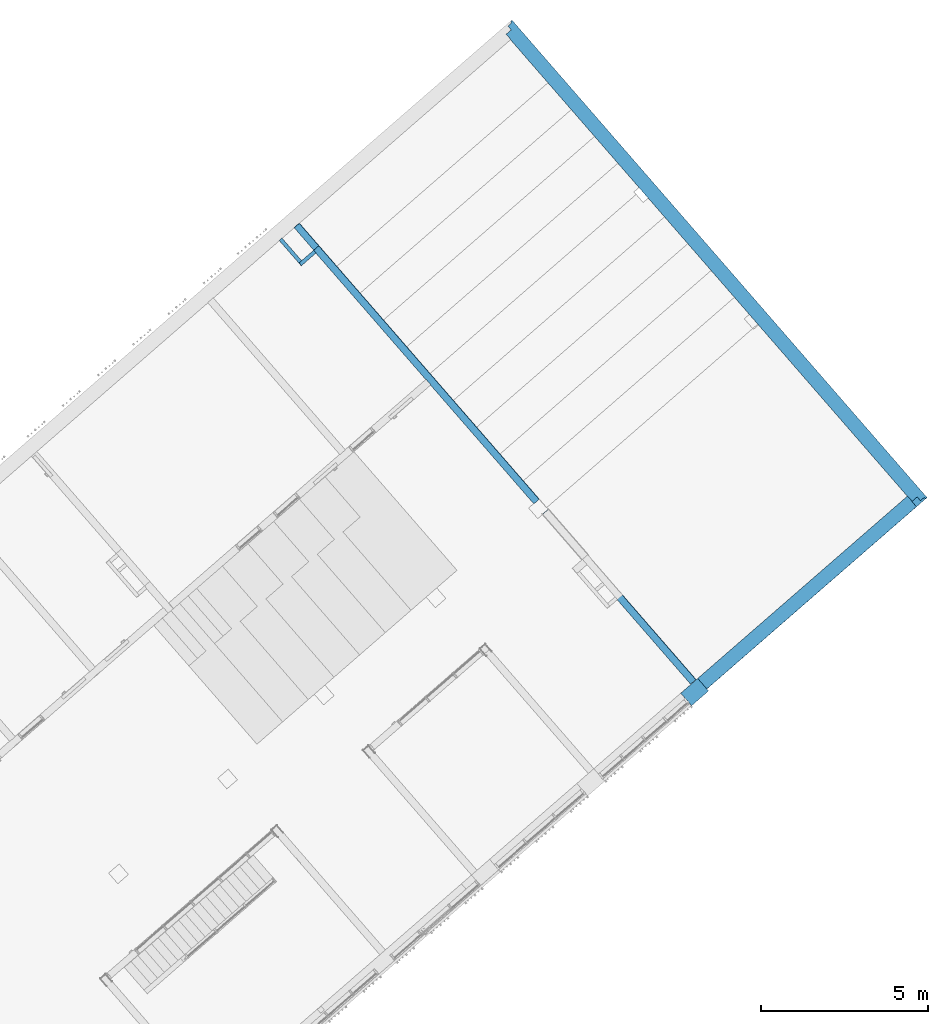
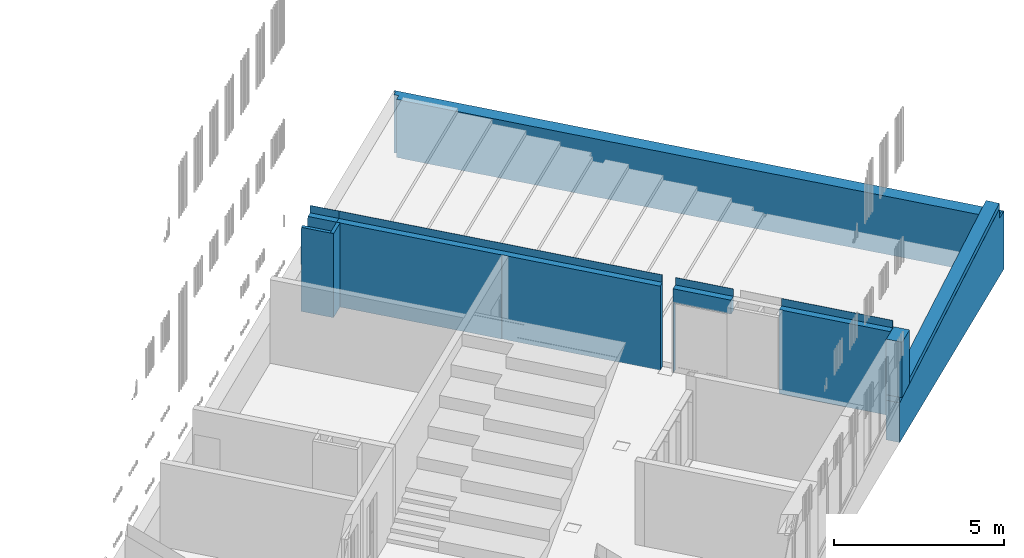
# One storey, part 81 of 124: 9 walls.
"""IFC2X3 building model written with IfcOpenShell, lengths in millimetres."""

from ifc_helpers import new_model, entity, si_unit, converted_unit, derived_unit, money_unit, direction, frame, origin_with_axes, place, context, subcontext, project, spatial, faceted_brep, material, material_list, type_object, element, save


model = new_model("IFC2X3")

# Units and contexts
model_context = context("Model", 3, precision=1e-05, world=origin_with_axes(), true_north=direction((0.0, 1.0)))
body_context = subcontext(model_context, "Body", "Model", "MODEL_VIEW")
ifc_project = project(units=[si_unit("LENGTHUNIT", "METRE", prefix="MILLI"), si_unit("AREAUNIT", "SQUARE_METRE"), si_unit("VOLUMEUNIT", "CUBIC_METRE"), converted_unit("PLANEANGLEUNIT", "DEGREE", entity("IfcPlaneAngleMeasure", 0.0174532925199), si_unit("PLANEANGLEUNIT", "RADIAN"), dimensions=[0, 0, 0, 0, 0, 0, 0]), si_unit("SOLIDANGLEUNIT", "STERADIAN"), money_unit("EUR"), converted_unit("TIMEUNIT", "Year", entity("IfcTimeMeasure", 31556926.0), si_unit("TIMEUNIT", "SECOND"), dimensions=[0, 0, 1, 0, 0, 0, 0]), si_unit("MASSUNIT", "GRAM", prefix="KILO"), si_unit("THERMODYNAMICTEMPERATUREUNIT", "DEGREE_CELSIUS"), si_unit("LUMINOUSINTENSITYUNIT", "LUMEN"), si_unit("ENERGYUNIT", "JOULE", prefix="MEGA"), derived_unit("THERMALCONDUCTANCEUNIT", [(si_unit("POWERUNIT", "WATT"), 1), (si_unit("LENGTHUNIT", "METRE"), -1), (si_unit("THERMODYNAMICTEMPERATUREUNIT", "KELVIN"), -1)]), derived_unit("SPECIFICHEATCAPACITYUNIT", [(si_unit("ENERGYUNIT", "JOULE"), 1), (si_unit("MASSUNIT", "GRAM", prefix="KILO"), -1), (si_unit("THERMODYNAMICTEMPERATUREUNIT", "KELVIN"), -1)]), derived_unit("MASSDENSITYUNIT", [(si_unit("MASSUNIT", "GRAM", prefix="KILO"), 1), (si_unit("VOLUMEUNIT", "CUBIC_METRE"), -1)])], contexts=[model_context])

# Site, building, storey
site_placement = place(None, origin_with_axes())
site = spatial("IfcSite", under=ifc_project, at=site_placement, Name="Site", CompositionType="ELEMENT")
building_placement = place(site_placement, origin_with_axes())
building = spatial("IfcBuilding", under=site, at=building_placement, Name="Building", CompositionType="ELEMENT")
storey_placement = place(building_placement, frame((0.0, 0.0, -1615.0), z_axis=(0.0, 0.0, 1.0), x_axis=(1.0, 0.0, 0.0)))
storey = spatial("IfcBuildingStorey", under=building, at=storey_placement, Name="0  korrus", CompositionType="ELEMENT", Elevation=-1615.0)

# Walls
ifc_material_1 = material(Name="Krohv - Lubjakivi")
ifc_material_2 = material(Name="Raudbetoon - Konstruktsioon")
ifc_material_list_1 = material_list([ifc_material_1, ifc_material_1, ifc_material_1, ifc_material_2, ifc_material_2, ifc_material_1, ifc_material_1, ifc_material_1])
wall_type_1 = type_object("IfcWallType", Name="SS-10", PredefinedType="NOTDEFINED")
wall_1_placement = place(storey_placement, frame((160795.819875, 107943.17128, -20.0), z_axis=(0.0, 0.0, 1.0), x_axis=(0.656059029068, -0.754709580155, 0.0)))
element("IfcWall", 1, at=wall_1_placement, inside=storey, type_object=wall_type_1, material=ifc_material_list_1, Name="SS-10", context=body_context, shape_type="Brep", body=[
    faceted_brep([(10060.0000922, 209.99999965, 3285.0), (10060.0000922, 219.999999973, 3285.0), (0.0, 219.999999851, 3285.0), (0.0, 209.999998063, 3285.0), (10060.0000922, 220.0, 0.0), (10060.0000922, 209.999798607, 0.0), (9340.00012424, 220.0, 0.0), (9340.00012424, 219.999999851, 120.0), (8275.00011862, 219.999999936, 120.0), (8275.00011959, 219.999999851, 280.0), (7210.00011397, 219.999999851, 280.0), (7210.00011494, 219.999999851, 440.0), (6145.00010932, 219.999999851, 440.0), (6145.0001103, 219.999999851, 600.0), (5080.00010467, 219.999999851, 600.0), (5080.00010565, 219.999999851, 760.0), (4015.00010002, 219.999999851, 760.0), (4015.000101, 219.999999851, 920.0), (2950.00009537, 219.999999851, 920.0), (2950.00009635, 219.999999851, 1080.0), (1885.00009073, 219.999999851, 1080.0), (1885.0000917, 219.999999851, 1240.0), (820.000086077, 219.999999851, 1240.0), (820.000086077, 219.999999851, 1400.0), (-2.80292056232e-06, 219.999999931, 1400.0), (0.0, 219.999999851, 3020.0), (-2.86203771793e-06, 209.999737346, 1400.0), (820.000086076, 209.99973737, 1400.0), (820.000086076, 209.99973737, 1240.0), (1885.0000917, 209.999737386, 1240.0), (1885.00009072, 209.999696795, 1080.0), (2950.00009635, 209.999696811, 1080.0), (2950.00009537, 209.99965622, 920.0), (4015.000101, 209.999656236, 920.0), (4015.00010002, 209.999615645, 760.0), (5080.00010565, 209.999615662, 760.0), (5080.00010467, 209.999575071, 600.0), (6145.0001103, 209.999575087, 600.0), (6145.00010932, 209.999534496, 440.0), (7210.00011494, 209.999534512, 440.0), (7210.00011397, 209.999493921, 280.0), (8275.00011959, 209.999493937, 280.0), (8275.00011861, 209.999453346, 120.0), (9340.00012424, 209.999453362, 120.0), (9340.00012424, 209.999453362, 0.0)], [[[0, 1, 2, 3]], [[4, 1, 0, 5]], [[1, 4, 6, 7, 8, 9, 10, 11, 12, 13, 14, 15, 16, 17, 18, 19, 20, 21, 22, 23, 24, 25, 2]], [[25, 24, 26, 3, 2]], [[5, 0, 3, 26, 27, 28, 29, 30, 31, 32, 33, 34, 35, 36, 37, 38, 39, 40, 41, 42, 43, 44]], [[4, 5, 44, 6]], [[44, 43, 7, 6]], [[42, 8, 7, 43]], [[9, 8, 42, 41]], [[40, 10, 9, 41]], [[11, 10, 40, 39]], [[38, 12, 11, 39]], [[13, 12, 38, 37]], [[36, 14, 13, 37]], [[15, 14, 36, 35]], [[34, 16, 15, 35]], [[17, 16, 34, 33]], [[32, 18, 17, 33]], [[19, 18, 32, 31]], [[30, 20, 19, 31]], [[21, 20, 30, 29]], [[29, 28, 22, 21]], [[27, 23, 22, 28]], [[26, 24, 23, 27]]]),
    faceted_brep([(12280.0000711, 210.0, 2520.0), (12280.0000711, 220.0, 2520.0), (12280.0000711, 220.0, 3285.0), (12280.0000711, 210.0, 3285.0), (10480.0000711, 219.999999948, 2520.0), (10480.0000711, 209.999999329, 2520.0), (10480.0000922, 219.999999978, 3285.0), (10480.0000922, 209.999999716, 3285.0)], [[[0, 1, 2, 3]], [[4, 1, 0, 5]], [[1, 4, 6, 2]], [[7, 3, 2, 6]], [[5, 0, 3, 7]], [[4, 5, 7, 6]]]),
    faceted_brep([(7210.00011397, 209.999493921, 40.0), (7210.00011397, 219.999999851, 40.0), (6145.00010932, 219.999999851, 40.0), (6145.00010932, 209.999534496, 40.0), (7210.00011397, 220.0, 0.0), (7210.00011397, 209.999493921, 0.0), (-5.22518917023e-06, 220.0, 0.0), (-3.4950033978e-06, 219.999999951, 1000.0), (820.000086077, 219.999999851, 1000.0), (820.000086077, 219.999999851, 840.0), (1885.00009073, 219.999999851, 840.0), (1885.00009073, 219.999999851, 680.0), (2950.00009537, 219.999999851, 680.0), (2950.00009537, 219.999999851, 520.0), (4015.00010002, 219.999999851, 520.0), (4015.00010002, 219.999999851, 360.0), (5080.00010467, 219.999999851, 360.0), (5080.00010467, 219.999999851, 200.0), (6145.00010932, 219.999999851, 200.0), (6145.00010932, 209.999534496, 200.0), (5080.00010467, 209.999575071, 200.0), (5080.00010467, 209.999575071, 360.0), (4015.00010002, 209.999615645, 360.0), (4015.00010002, 209.999615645, 520.0), (2950.00009537, 209.99965622, 520.0), (2950.00009537, 209.99965622, 680.0), (1885.00009072, 209.999696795, 680.0), (1885.00009072, 209.999696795, 840.0), (820.000086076, 209.99973737, 840.0), (820.000086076, 209.99973737, 1000.0), (-3.46935280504e-06, 209.999737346, 1000.0), (-4.98766894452e-06, 210.0, 0.0)], [[[0, 1, 2, 3]], [[4, 1, 0, 5]], [[1, 4, 6, 7, 8, 9, 10, 11, 12, 13, 14, 15, 16, 17, 18, 2]], [[2, 18, 19, 3]], [[5, 0, 3, 19, 20, 21, 22, 23, 24, 25, 26, 27, 28, 29, 30, 31]], [[4, 5, 31, 6]], [[30, 7, 6, 31]], [[29, 8, 7, 30]], [[8, 29, 28, 9]], [[27, 10, 9, 28]], [[11, 10, 27, 26]], [[25, 12, 11, 26]], [[13, 12, 25, 24]], [[23, 14, 13, 24]], [[15, 14, 23, 22]], [[21, 16, 15, 22]], [[17, 16, 21, 20]], [[19, 18, 17, 20]]]),
    faceted_brep([(10070.0000929, 10.0000002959, 3020.0), (10070.0000922, 209.999872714, 3020.0), (-4.02351929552e-07, 210.000035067, 3020.0), (-1.91704430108e-08, 10.0000016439, 3020.0), (10070.0000922, 210.0, 0.0), (10070.0000929, 9.99999999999, 0.0), (-4.98765473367e-06, 210.0, 0.0), (-2.37491804e-07, 9.99999999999, 0.0)], [[[0, 1, 2, 3]], [[4, 1, 0, 5]], [[1, 4, 6, 2]], [[7, 3, 2, 6]], [[5, 0, 3, 7]], [[4, 5, 7, 6]]]),
    faceted_brep([(12280.0000711, 9.99999999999, 2520.0), (12280.0000711, 120.0, 2520.0), (12280.0000711, 209.999864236, 2520.0), (12280.0000711, 209.999837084, 3020.0), (12280.0000711, 9.99999999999, 3020.0), (10480.0000711, 10.0000017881, 2520.0), (10480.0000711, 210.0, 2520.0), (10470.0000922, 209.999866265, 3020.0), (10480.0000711, 209.999998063, 20.0), (10480.0000711, 210.0, 0.0), (10470.0000922, 210.0, 0.0), (10470.0000929, 10.0000002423, 3020.0), (10470.0000929, 9.99999999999, 0.0), (10480.0000711, 9.99999999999, 0.0), (10480.0000711, 10.0000017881, 20.0), (10480.0000711, 120.0, 20.0)], [[[0, 1, 2, 3, 4]], [[1, 0, 5, 6, 2]], [[7, 3, 2, 6, 8, 9, 10]], [[4, 3, 7, 11]], [[5, 0, 4, 11, 12, 13, 14]], [[5, 14, 15, 8, 6]], [[15, 14, 13, 9, 8]], [[9, 13, 12, 10]], [[10, 12, 11, 7]]]),
    faceted_brep([(10060.0000929, 0.0, 3020.0), (10060.0000929, 10.0000002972, 3020.0), (5340.00012846, 10.000000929, 3020.0), (5340.00012844, 0.0, 3020.0), (10060.0000929, 9.99999999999, 0.0), (10060.0000929, 0.0, 0.0), (5340.00008876, 9.99999999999, 0.0), (5340.00008877, 0.0, 0.0)], [[[0, 1, 2, 3]], [[4, 1, 0, 5]], [[1, 4, 6, 2]], [[7, 3, 2, 6]], [[5, 0, 3, 7]], [[4, 5, 7, 6]]]),
    faceted_brep([(12280.0000711, 0.0, 2520.0), (12280.0000711, 9.99999999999, 2520.0), (12280.0000711, 9.99999999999, 3020.0), (12280.0000711, 0.0, 3020.0), (10480.0000711, 10.0000003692, 2520.0), (10480.0000711, 0.0, 2520.0), (10480.0000929, 10.000000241, 3020.0), (10480.0000929, 0.0, 3020.0)], [[[0, 1, 2, 3]], [[4, 1, 0, 5]], [[1, 4, 6, 2]], [[7, 3, 2, 6]], [[5, 0, 3, 7]], [[4, 5, 7, 6]]]),
    faceted_brep([(109.999999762, 10.0000017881, 3020.0), (5140.00008949, 10.0000009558, 3020.0), (5140.00008876, 9.99999999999, 0.0), (109.999999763, 9.99999999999, 0.0), (5140.00008949, 0.0, 3020.0), (110.0, 0.0, 3020.0), (5140.00008877, 0.0, 0.0), (110.0, 0.0, 0.0)], [[[0, 1, 2, 3]], [[4, 1, 0, 5]], [[1, 4, 6, 2]], [[6, 7, 3, 2]], [[5, 0, 3, 7]], [[4, 5, 7, 6]]]),
])
ifc_material_list_2 = material_list([ifc_material_1, ifc_material_2, ifc_material_1])
wall_2_placement = place(storey_placement, frame((169829.752815, 97550.8203324, -20.0), z_axis=(0.0, 0.0, 1.0), x_axis=(0.656059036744, -0.754709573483, 0.0)))
element("IfcWall", 2, at=wall_2_placement, inside=storey, type_object=wall_type_1, material=ifc_material_list_2, Name="SS-10", context=body_context, shape_type="Brep", body=[
    faceted_brep([(110.000002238, 219.999190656, 3020.0), (2.23759855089e-06, 219.999251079, 3020.0), (0.0, 219.999999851, 3285.0), (3460.0, 220.0, 3285.0), (3460.0, 220.0, 0.0), (110.000002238, 219.999190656, 0.0), (110.000002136, 209.999998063, 3020.0), (2.13589146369e-06, 209.999998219, 3020.0), (0.0, 209.999998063, 3285.0), (3460.0, 210.0, 3285.0), (3460.0, 210.0, 0.0), (110.000002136, 210.0, 0.0)], [[[0, 1, 2, 3, 4, 5]], [[0, 6, 7, 1]], [[1, 7, 8, 2]], [[3, 2, 8, 9]], [[9, 10, 4, 3]], [[11, 5, 4, 10]], [[0, 5, 11, 6]], [[6, 11, 10, 9, 8, 7]]]),
    faceted_brep([(1.72306613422e-07, 209.999841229, 3020.0), (3460.0, 209.999963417, 3020.0), (3460.0, 210.0, 0.0), (2.13590567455e-06, 210.0, 0.0), (3460.0, 9.99999999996, 3020.0), (1.01721298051e-07, 9.99911842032, 3020.0), (3460.0, 9.99999999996, 0.0), (1.01749719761e-07, 9.99999999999, 0.0)], [[[0, 1, 2, 3]], [[4, 1, 0, 5]], [[1, 4, 6, 2]], [[6, 7, 3, 2]], [[5, 0, 3, 7]], [[4, 5, 7, 6]]]),
    faceted_brep([(110.000000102, 10.0000017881, 3020.0), (3460.0, 9.99999999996, 3020.0), (3460.0, 9.99999999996, 0.0), (110.000000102, 9.99999999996, 0.0), (3460.0, 0.0, 3020.0), (110.0, 0.0, 3020.0), (3460.0, 0.0, 0.0), (110.0, 0.0, 0.0)], [[[0, 1, 2, 3]], [[4, 1, 0, 5]], [[1, 4, 6, 2]], [[6, 7, 3, 2]], [[5, 0, 3, 7]], [[4, 5, 7, 6]]]),
])
ifc_material_list_3 = material_list([ifc_material_1, ifc_material_1, ifc_material_2])
wall_type_2 = type_object("IfcWallType", Name="SS-11", PredefinedType="NOTDEFINED")
wall_3_placement = place(storey_placement, frame((160219.474514, 108621.423344, -20.0), z_axis=(0.0, 0.0, 1.0), x_axis=(0.65605900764, -0.754709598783, 0.0)))
element("IfcWall", 3, at=wall_3_placement, inside=storey, type_object=wall_type_2, material=ifc_material_list_3, Name="SS-11", context=body_context, shape_type="Brep", body=[
    faceted_brep([(0.0, 209.999994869, 1000.0), (890.451290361, 210.0, 1000.0), (890.451290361, 210.0, 0.0), (0.0, 209.999992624, 0.0), (890.451290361, 199.999737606, 1000.0), (0.0, 199.999712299, 1000.0), (890.451290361, 200.0, 0.0), (0.0, 199.999995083, 0.0)], [[[0, 1, 2, 3]], [[4, 1, 0, 5]], [[1, 4, 6, 2]], [[2, 6, 7, 3]], [[5, 0, 3, 7]], [[4, 5, 7, 6]]]),
    faceted_brep([(890.451290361, 199.999737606, 1400.0), (890.451290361, 210.0, 1400.0), (890.451290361, 210.0, 3285.0), (890.451290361, 200.0, 3285.0), (0.0, 209.999995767, 1400.0), (0.0, 199.999712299, 1400.0), (0.0, 210.0, 3285.0), (0.0, 200.0, 3285.0)], [[[0, 1, 2, 3]], [[4, 1, 0, 5]], [[1, 4, 6, 2]], [[3, 2, 6, 7]], [[5, 0, 3, 7]], [[4, 5, 7, 6]]]),
    faceted_brep([(0.0, 200.000038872, 3020.0), (890.451290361, 200.000035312, 3020.0), (890.451290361, 200.0, 0.0), (0.0, 199.999995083, 0.0), (0.0, 199.999995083, 1485.0), (-10.0000056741, 199.999995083, 1485.0), (-9.99992724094, 200.0, 2965.0), (0.0, 200.0, 2965.0), (0.0, 3.81462257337e-05, 3020.0), (339.999999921, 1.20967627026e-05, 3020.0), (890.451290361, 0.0, 3020.0), (890.451290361, 0.0, 0.0), (0.0, 0.0, 0.0), (0.0, 0.0, 1485.0), (-10.0, 0.0, 1485.0), (-9.9999446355, 0.0, 2965.0), (0.0, 0.0, 2965.0)], [[[0, 1, 2, 3, 4, 5, 6, 7]], [[1, 0, 8, 9, 10]], [[1, 10, 11, 2]], [[2, 11, 12, 3]], [[12, 13, 4, 3]], [[13, 14, 5, 4]], [[15, 6, 5, 14]], [[7, 6, 15, 16]], [[8, 0, 7, 16]], [[9, 8, 16, 15, 14, 13, 12, 11, 10]]]),
])
ifc_material_3 = material(Name="Membraan - Veekindel")
ifc_material_4 = material(Name="Soojustus - Plastik Kõva")
ifc_material_list_4 = material_list([ifc_material_3, ifc_material_3, ifc_material_4, ifc_material_4, ifc_material_2, ifc_material_1])
wall_type_3 = type_object("IfcWallType", Name="VS-03", PredefinedType="NOTDEFINED")
wall_4_placement = place(storey_placement, frame((166702.429594, 114256.970218, -620.0), z_axis=(0.0, 0.0, 1.0), x_axis=(0.656059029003, -0.754709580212, 0.0)))
element("IfcWall", 4, at=wall_4_placement, inside=storey, type_object=wall_type_3, material=ifc_material_list_4, Name="VS-03", context=body_context, shape_type="Brep", body=[
    faceted_brep([(18550.0000009, 415.0, 0.0), (-420.000000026, 415.0, 0.0), (-420.000000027, 420.0, 0.0), (18550.0000009, 420.0, 0.0), (18550.0000009, 415.0, 2084.99999837), (-420.000000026, 415.0, 2084.99999837), (-420.000000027, 420.0, 2084.99999837), (18550.0000009, 420.0, 2084.99999837)], [[[0, 1, 2, 3]], [[4, 5, 1, 0]], [[2, 1, 5, 6]], [[3, 2, 6, 7]], [[3, 7, 4, 0]], [[7, 6, 5, 4]]]),
    faceted_brep([(18545.0000009, 410.0, 0.0), (-415.000000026, 410.0, 0.0), (-415.000000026, 415.0, 0.0), (18545.0000009, 415.0, 0.0), (18545.0000009, 410.0, 2084.99999837), (-415.000000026, 410.0, 2084.99999837), (-415.000000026, 415.0, 2084.99999837), (18545.0000009, 415.0, 2084.99999837)], [[[0, 1, 2, 3]], [[4, 5, 1, 0]], [[2, 1, 5, 6]], [[3, 2, 6, 7]], [[3, 7, 4, 0]], [[7, 6, 5, 4]]]),
    faceted_brep([(18540.0000009, 360.0, 0.0), (-410.000000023, 360.0, 0.0), (-410.000000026, 410.0, 0.0), (18540.0000009, 410.0, 0.0), (18540.0000009, 360.0, 2084.99999837), (-410.000000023, 360.0, 2084.99999837), (-410.000000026, 410.0, 2084.99999837), (18540.0000009, 410.0, 2084.99999837)], [[[0, 1, 2, 3]], [[4, 5, 1, 0]], [[2, 1, 5, 6]], [[3, 2, 6, 7]], [[3, 7, 4, 0]], [[7, 6, 5, 4]]]),
    faceted_brep([(18490.0000009, 210.0, 0.0), (-360.000000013, 210.0, 0.0), (-360.000000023, 360.0, 0.0), (18490.0000009, 360.0, 0.0), (18490.0000009, 210.0, 2084.99999837), (-360.000000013, 210.0, 2084.99999837), (-360.000000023, 360.0, 2084.99999837), (18490.0000009, 360.0, 2084.99999837)], [[[0, 1, 2, 3]], [[4, 5, 1, 0]], [[2, 1, 5, 6]], [[3, 2, 6, 7]], [[3, 7, 4, 0]], [[7, 6, 5, 4]]]),
    faceted_brep([(18340.0000009, 9.99999999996, 0.0), (-210.000000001, 9.99999999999, 0.0), (-210.000000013, 210.0, 0.0), (18340.0000009, 210.0, 0.0), (18340.0000009, 9.99999999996, 2084.99999837), (-210.000000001, 9.99999999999, 2084.99999837), (-210.000000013, 210.0, 2084.99999837), (18340.0000009, 210.0, 2084.99999837)], [[[0, 1, 2, 3]], [[4, 5, 1, 0]], [[2, 1, 5, 6]], [[3, 2, 6, 7]], [[3, 7, 4, 0]], [[7, 6, 5, 4]]]),
    faceted_brep([(18140.0000009, 0.0, 0.0), (-9.99999999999, 0.0, 0.0), (-10.0000000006, 9.99999999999, 0.0), (18140.0000009, 9.99999999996, 0.0), (18140.0000009, 0.0, 2084.99999837), (-9.99999999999, 0.0, 2084.99999837), (-10.0000000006, 9.99999999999, 2084.99999837), (18140.0000009, 9.99999999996, 2084.99999837)], [[[0, 1, 2, 3]], [[4, 5, 1, 0]], [[2, 1, 5, 6]], [[3, 2, 6, 7]], [[3, 7, 4, 0]], [[7, 6, 5, 4]]]),
])
ifc_material_list_5 = material_list([ifc_material_1, ifc_material_2, ifc_material_4, ifc_material_4, ifc_material_3, ifc_material_3])
wall_5_placement = place(storey_placement, frame((171804.393813, 94669.5544787, -620.0), z_axis=(0.0, 0.0, 1.0), x_axis=(0.75470958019, 0.656059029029, 0.0)))
element("IfcWall", 5, at=wall_5_placement, inside=storey, type_object=wall_type_3, material=ifc_material_list_5, Name="VS-03", context=body_context, shape_type="Brep", body=[
    faceted_brep([(8999.99967705, 0.0, 2433.49572665), (8999.99967705, -10.0000026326, 2433.49572664), (8999.99967705, -10.0, 0.0), (8999.99967705, 0.0, 0.0), (8999.99967705, 0.0, 2084.99999837), (0.0, -10.0, 1425.80345495), (0.0, 0.0, 1425.80345496), (0.0, -10.0, 0.0), (0.0, 0.0, 0.0)], [[[0, 1, 2, 3, 4]], [[5, 1, 0, 6]], [[1, 5, 7, 2]], [[8, 3, 2, 7]], [[6, 0, 4, 3, 8]], [[5, 6, 8, 7]]]),
    faceted_brep([(8999.99967705, -10.0000026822, 2433.49572664), (8999.99967705, -210.0, 2433.49572648), (8999.99967705, -210.0, 2084.99999837), (8999.99967705, -10.0000026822, 2084.99999837), (0.0, -210.0, 1425.80345478), (0.0, -10.0, 1425.80345495), (0.0, -210.0, 0.0), (9009.99967704, -210.0, 0.0), (9009.99967704, -210.0, 2084.99999837), (9009.99967705, -10.0000026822, 2084.99999837), (9009.99967705, -10.0, 0.0), (0.0, -10.0, 0.0)], [[[0, 1, 2, 3]], [[4, 1, 0, 5]], [[1, 4, 6, 7, 8, 2]], [[2, 8, 9, 3]], [[5, 0, 3, 9, 10, 11]], [[4, 5, 11, 6]], [[11, 10, 7, 6]], [[10, 9, 8, 7]]]),
    faceted_brep([(8999.99967705, -210.0, 2433.49572648), (8999.99967705, -360.0, 2433.49572635), (8999.99967705, -360.0, 2084.99999837), (8999.99967705, -210.0, 2084.99999837), (0.0, -360.0, 1425.80345466), (0.0, -210.0, 1425.80345478), (0.0, -360.0, 0.0), (9209.99967704, -360.0, 0.0), (9209.99967704, -360.0, 2084.99999837), (9209.99967704, -210.0, 2084.99999837), (9209.99967704, -210.0, 0.0), (0.0, -210.0, 0.0)], [[[0, 1, 2, 3]], [[4, 1, 0, 5]], [[1, 4, 6, 7, 8, 2]], [[2, 8, 9, 3]], [[5, 0, 3, 9, 10, 11]], [[4, 5, 11, 6]], [[11, 10, 7, 6]], [[10, 9, 8, 7]]]),
    faceted_brep([(8999.99967705, -360.0, 2433.49572635), (8999.99967705, -409.999997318, 2433.49572631), (8999.99967705, -409.999997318, 2084.99999837), (8999.99967705, -360.0, 2084.99999837), (0.0, -410.0, 1425.80345462), (0.0, -360.0, 1425.80345466), (0.0, -410.0, 0.0), (9359.99967703, -410.0, 0.0), (9359.99967703, -409.999997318, 2084.99999837), (9359.99967704, -360.0, 2084.99999837), (9359.99967704, -360.0, 0.0), (0.0, -360.0, 0.0)], [[[0, 1, 2, 3]], [[4, 1, 0, 5]], [[1, 4, 6, 7, 8, 2]], [[2, 8, 9, 3]], [[5, 0, 3, 9, 10, 11]], [[4, 5, 11, 6]], [[11, 10, 7, 6]], [[10, 9, 8, 7]]]),
    faceted_brep([(8999.99967705, -409.999997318, 2433.49572631), (8999.99967705, -415.0, 2433.49572631), (8999.99967705, -415.0, 2084.99999837), (8999.99967705, -409.999997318, 2084.99999837), (0.0, -415.0, 1425.80345462), (0.0, -410.0, 1425.80345462), (0.0, -415.0, 0.0), (9409.99967703, -415.0, 0.0), (9409.99967703, -415.0, 2084.99999837), (9409.99967703, -409.999997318, 2084.99999837), (9409.99967703, -410.0, 0.0), (0.0, -410.0, 0.0)], [[[0, 1, 2, 3]], [[4, 1, 0, 5]], [[1, 4, 6, 7, 8, 2]], [[2, 8, 9, 3]], [[5, 0, 3, 9, 10, 11]], [[4, 5, 11, 6]], [[11, 10, 7, 6]], [[10, 9, 8, 7]]]),
    faceted_brep([(8999.99967705, -415.0, 2433.49572631), (8999.99967705, -420.0, 2433.4957263), (8999.99967705, -420.0, 2084.99999837), (8999.99967705, -415.0, 2084.99999837), (0.0, -420.0, 1425.80345461), (0.0, -415.0, 1425.80345462), (0.0, -420.0, 0.0), (9414.99967703, -420.0, 0.0), (9414.99967703, -420.0, 2084.99999837), (9414.99967703, -415.0, 2084.99999837), (9414.99967703, -415.0, 0.0), (0.0, -415.0, 0.0)], [[[0, 1, 2, 3]], [[4, 1, 0, 5]], [[1, 4, 6, 7, 8, 2]], [[2, 8, 9, 3]], [[5, 0, 3, 9, 10, 11]], [[4, 5, 11, 6]], [[11, 10, 7, 6]], [[10, 9, 8, 7]]]),
])
ifc_material_5 = material(Name="Puit - Konstruktsioon")
ifc_material_6 = material(Name="Õhkvahe")
ifc_material_7 = material(Name="Raudbetoon - Toode")
ifc_material_list_6 = material_list([ifc_material_5, ifc_material_5, ifc_material_6, ifc_material_4, ifc_material_4, ifc_material_7, ifc_material_1])
wall_type_4 = type_object("IfcWallType", Name="VS-01", PredefinedType="NOTDEFINED")
wall_6_placement = place(storey_placement, frame((172313.822779, 95112.3943233, 980.981662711), z_axis=(0.0, 0.0, 1.0), x_axis=(-0.754709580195, -0.656059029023, 0.0)))
element("IfcWall", 6, at=wall_6_placement, inside=storey, type_object=wall_type_4, material=ifc_material_list_6, Name="VS-01", context=body_context, shape_type="Brep", body=[
    faceted_brep([(675.0, 475.0, 24.2164199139), (675.0, 475.0, 2019.01833729), (0.0, 475.0, 2019.01833729), (0.0, 475.0, 99.7933430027), (675.0, 497.0, 24.2164198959), (675.0, 497.0, 2019.01833729), (0.0, 497.0, 2019.01833729), (0.0, 497.0, 99.7933429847)], [[[0, 1, 2, 3]], [[4, 5, 1, 0]], [[1, 5, 6, 2]], [[3, 2, 6, 7]], [[0, 3, 7, 4]], [[5, 4, 7, 6]]]),
    faceted_brep([(675.0, 455.0, 24.2164199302), (675.0, 455.0, 2019.01833729), (0.0, 455.0, 2019.01833729), (0.0, 455.0, 99.793343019), (675.0, 475.0, 24.2164199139), (675.0, 475.0, 2019.01833729), (0.0, 475.0, 2019.01833729), (0.0, 475.0, 99.7933430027)], [[[0, 1, 2, 3]], [[4, 5, 1, 0]], [[1, 5, 6, 2]], [[3, 2, 6, 7]], [[0, 3, 7, 4]], [[5, 4, 7, 6]]]),
    faceted_brep([(675.0, 410.0, 24.2164199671), (675.0, 410.0, 2019.01833729), (0.0, 410.0, 2019.01833729), (0.0, 410.0, 99.7933430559), (675.0, 455.0, 24.2164199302), (675.0, 455.0, 2019.01833729), (0.0, 455.0, 2019.01833729), (0.0, 455.0, 99.793343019)], [[[0, 1, 2, 3]], [[4, 5, 1, 0]], [[1, 5, 6, 2]], [[3, 2, 6, 7]], [[0, 3, 7, 4]], [[5, 4, 7, 6]]]),
    faceted_brep([(675.0, 360.0, 24.216420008), (675.0, 360.0, 2019.01833729), (0.0, 360.0, 2019.01833729), (0.0, 360.0, 99.7933430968), (675.0, 410.0, 24.2164199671), (675.0, 410.0, 2019.01833729), (0.0, 410.0, 2019.01833729), (0.0, 410.0, 99.7933430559)], [[[0, 1, 2, 3]], [[4, 5, 1, 0]], [[1, 5, 6, 2]], [[3, 2, 6, 7]], [[0, 3, 7, 4]], [[5, 4, 7, 6]]]),
    faceted_brep([(675.0, 210.0, 24.2164201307), (675.0, 210.0, 2019.01833729), (0.0, 210.0, 2019.01833729), (0.0, 210.0, 99.7933432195), (675.0, 360.0, 24.216420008), (675.0, 360.0, 2019.01833729), (0.0, 360.0, 2019.01833729), (0.0, 360.0, 99.7933430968)], [[[0, 1, 2, 3]], [[4, 5, 1, 0]], [[1, 5, 6, 2]], [[3, 2, 6, 7]], [[0, 3, 7, 4]], [[5, 4, 7, 6]]]),
    faceted_brep([(675.0, 10.0, 24.2164202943), (675.0, 10.0, 2019.01833729), (0.0, 10.0, 2019.01833729), (0.0, 10.0, 99.7933433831), (675.0, 210.0, 24.2164201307), (675.0, 210.0, 2019.01833729), (0.0, 210.0, 2019.01833729), (0.0, 210.0, 99.7933432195)], [[[0, 1, 2, 3]], [[4, 5, 1, 0]], [[1, 5, 6, 2]], [[3, 2, 6, 7]], [[0, 3, 7, 4]], [[5, 4, 7, 6]]]),
    faceted_brep([(675.0, 0.0, 24.2164203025), (675.0, 0.0, 2019.01833729), (0.0, 0.0, 2019.01833729), (0.0, 0.0, 99.7933433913), (675.0, 10.0, 24.2164202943), (675.0, 10.0, 2019.01833729), (0.0, 10.0, 2019.01833729), (0.0, 10.0, 99.7933433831)], [[[0, 1, 2, 3]], [[4, 5, 1, 0]], [[1, 5, 6, 2]], [[3, 2, 6, 7]], [[0, 3, 7, 4]], [[5, 4, 7, 6]]]),
])
ifc_material_8 = material(Name="Müüriplokk - Konstuktsioon")
ifc_material_list_7 = material_list([ifc_material_1, ifc_material_8])
wall_type_5 = type_object("IfcWallType", Name="SS-08", PredefinedType="NOTDEFINED")
wall_7_placement = place(storey_placement, frame((160441.10638, 107634.823527, -20.0), z_axis=(0.0, 0.0, 1.0), x_axis=(-0.65605821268, 0.75471028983, 0.0)))
element("IfcWall", 7, at=wall_7_placement, inside=storey, type_object=wall_type_5, material=ifc_material_list_7, Name="SS-08", context=body_context, shape_type="Brep", body=[
    faceted_brep([(899.93023657, 100.0, 2965.0), (889.999812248, 100.0, 2965.0), (889.999812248, 100.0, 3020.0), (-100.000110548, 100.0, 3020.0), (-100.000110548, 100.0, 0.0), (900.000000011, 100.0, 0.0), (899.99981233, 99.9999999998, 1485.0), (889.99981233, 100.0, 1485.0), (889.99981233, 100.0, 1685.00000054), (899.93023657, 99.9999999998, 1685.00000054), (899.930248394, 110.0, 2965.0), (889.999801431, 110.0, 2965.0), (889.999801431, 110.0, 3020.0), (-100.000121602, 110.0, 3020.0), (-100.000121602, 110.0, 0.0), (900.000000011, 110.0, 0.0), (899.999801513, 110.0, 1485.0), (889.999801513, 110.0, 1485.0), (889.999801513, 110.0, 1685.00000054), (899.930248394, 110.0, 1685.00000054)], [[[0, 1, 2, 3, 4, 5, 6, 7, 8, 9]], [[1, 0, 10, 11]], [[12, 2, 1, 11]], [[2, 12, 13, 3]], [[13, 14, 4, 3]], [[14, 15, 5, 4]], [[16, 6, 5, 15]], [[7, 6, 16, 17]], [[8, 7, 17, 18]], [[19, 9, 8, 18]], [[10, 0, 9, 19]], [[11, 10, 19, 18, 17, 16, 15, 14, 13, 12]]]),
    faceted_brep([(900.000000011, 0.0, 1635.0), (899.930118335, 0.0, 1635.0), (899.930118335, 0.0, 2965.0), (900.000000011, 0.0, 2965.0), (900.000000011, 0.0, 3020.0), (0.0, 0.0, 3020.0), (0.0, 0.0, 0.0), (900.000000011, 0.0, 0.0), (900.000000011, 100.0, 1635.0), (899.93023657, 100.0, 1635.0), (899.93023657, 100.0, 2965.0), (900.000000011, 100.0, 2965.0), (900.000000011, 100.0, 3020.0), (-0.000110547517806, 100.0, 3020.0), (-0.000110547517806, 100.0, 0.0), (900.000000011, 100.0, 0.0)], [[[0, 1, 2, 3, 4, 5, 6, 7]], [[1, 0, 8, 9]], [[2, 1, 9, 10]], [[3, 2, 10, 11]], [[3, 11, 12, 4]], [[5, 4, 12, 13]], [[13, 14, 6, 5]], [[14, 15, 7, 6]], [[8, 0, 7, 15]], [[9, 8, 15, 14, 13, 12, 11, 10]]]),
])
wall_8_placement = place(storey_placement, frame((160795.819875, 107943.17128, -20.0), z_axis=(0.0, 0.0, 1.0), x_axis=(-0.754709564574, -0.656059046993, 0.0)))
element("IfcWall", 8, at=wall_8_placement, inside=storey, type_object=wall_type_5, material=ifc_material_list_7, Name="SS-08", context=body_context, shape_type="Brep", body=[
    faceted_brep([(580.000121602, 110.0, 0.0), (580.000110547, 100.0, 0.0), (-9.9999976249, 100.0, 0.0), (-9.99999738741, 110.0, 0.0), (580.000121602, 110.0, 3020.0), (580.000110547, 100.0, 3020.0), (-9.9999976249, 100.0, 3020.0), (-9.99999738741, 110.0, 3020.0)], [[[0, 1, 2, 3]], [[1, 0, 4, 5]], [[1, 5, 6, 2]], [[7, 3, 2, 6]], [[4, 0, 3, 7]], [[5, 4, 7, 6]]]),
    faceted_brep([(570.000110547, 100.0, 0.0), (570.0, 0.0, 0.0), (-9.99999999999, 0.0, 0.0), (-9.9999976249, 100.0, 0.0), (570.000110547, 100.0, 3020.0), (570.0, 0.0, 3020.0), (-9.99999999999, 0.0, 3020.0), (-9.9999976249, 100.0, 3020.0)], [[[0, 1, 2, 3]], [[1, 0, 4, 5]], [[1, 5, 6, 2]], [[7, 3, 2, 6]], [[4, 0, 3, 7]], [[5, 4, 7, 6]]]),
])
ifc_material_9 = material(Name="Plaat - Sein")
ifc_material_list_8 = material_list([ifc_material_1, ifc_material_2, ifc_material_4, ifc_material_4, ifc_material_9])
wall_type_6 = type_object("IfcWallType", Name="VS-05", PredefinedType="NOTDEFINED")
wall_9_placement = place(storey_placement, frame((171804.393813, 94669.5544787, -200.0), z_axis=(0.0, 0.0, 1.0), x_axis=(0.75470958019, 0.656059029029, 0.0)))
element("IfcWall", 9, at=wall_9_placement, inside=storey, type_object=wall_type_6, material=ifc_material_list_8, Name="VS-05", context=body_context, shape_type="Brep", body=[
    faceted_brep([(0.0, -9.99999999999, 1005.80345495), (8999.99967706, -9.99999137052, 2013.49572664), (8999.99967706, -9.99999071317, 2213.49572664), (569.999677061, -9.99999996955, 1269.62393162), (0.0, -9.99999999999, 1205.80345495), (8999.99967627, -1.71650071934e-06, 2013.49572656), (0.0, 0.0, 1005.80345495), (8999.99967706, -5.90843285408e-06, 2213.49572665), (0.0, 0.0, 1205.80345495), (569.999677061, 3.04538616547e-08, 1269.62393163)], [[[0, 1, 2, 3, 4]], [[5, 1, 0, 6]], [[1, 5, 7, 2]], [[8, 4, 3, 2, 7, 9]], [[6, 0, 4, 8]], [[5, 6, 8, 9, 7]]]),
    faceted_brep([(0.0, -210.0, 1005.80345478), (9009.99967486, -209.99999844, 2014.61538435), (9009.99967486, -210.000000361, 2214.61538435), (8999.99967706, -210.0000059, 2213.49572648), (569.99967706, -209.99999997, 1269.62393145), (0.0, -210.0, 1205.80345478), (9009.99967488, -10.0000000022, 2014.61538451), (0.0, -9.99999999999, 1005.80345495), (9009.99967488, -10.0000011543, 2214.61538451), (0.0, -9.99999999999, 1205.80345495), (8999.99967706, -9.99999071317, 2213.49572664), (569.999677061, -9.99999996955, 1269.62393162)], [[[0, 1, 2, 3, 4, 5]], [[6, 1, 0, 7]], [[1, 6, 8, 2]], [[9, 5, 4, 3, 2, 8, 10, 11]], [[7, 0, 5, 9]], [[6, 7, 9, 11, 10, 8]]]),
    faceted_brep([(0.0, -360.0, 1005.80345466), (8999.99967706, -360.0, 2013.49572635), (8999.99967706, -360.0, 2213.49572635), (569.99967706, -359.99999997, 1269.62393133), (0.0, -360.0, 1205.80345466), (8999.99967706, -210.000004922, 2013.49572648), (0.0, -210.0, 1005.80345478), (8999.99967706, -210.000005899, 2213.49572648), (0.0, -210.0, 1205.80345478), (569.99967706, -209.99999997, 1269.62393145)], [[[0, 1, 2, 3, 4]], [[5, 1, 0, 6]], [[1, 5, 7, 2]], [[8, 4, 3, 2, 7, 9]], [[6, 0, 4, 8]], [[5, 6, 8, 9, 7]]]),
    faceted_brep([(0.0, -410.0, 1005.80345462), (8999.99967706, -410.000000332, 2013.49572631), (8999.99967706, -410.000001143, 2213.49572631), (569.99967706, -409.99999997, 1269.62393129), (0.0, -410.0, 1205.80345462), (8999.99967706, -360.0, 2013.49572635), (0.0, -360.0, 1005.80345466), (8999.99967706, -360.0, 2213.49572635), (0.0, -360.0, 1205.80345466), (569.99967706, -359.99999997, 1269.62393133)], [[[0, 1, 2, 3, 4]], [[5, 1, 0, 6]], [[1, 5, 7, 2]], [[8, 4, 3, 2, 7, 9]], [[6, 0, 4, 8]], [[5, 6, 8, 9, 7]]]),
    faceted_brep([(0.0, -418.0, 1005.80345461), (8999.99967625, -418.0, 2013.49572621), (8999.99967706, -418.0, 2213.49572631), (0.0, -418.0, 1205.80345461), (8999.99967706, -410.000000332, 2013.49572631), (0.0, -410.0, 1005.80345462), (8999.99967706, -410.000001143, 2213.49572631), (0.0, -410.0, 1205.80345462), (569.99967706, -409.99999997, 1269.62393129)], [[[0, 1, 2, 3]], [[4, 1, 0, 5]], [[1, 4, 6, 2]], [[7, 3, 2, 6, 8]], [[5, 0, 3, 7]], [[4, 5, 7, 8, 6]]]),
])

save(model, "model.ifc")
